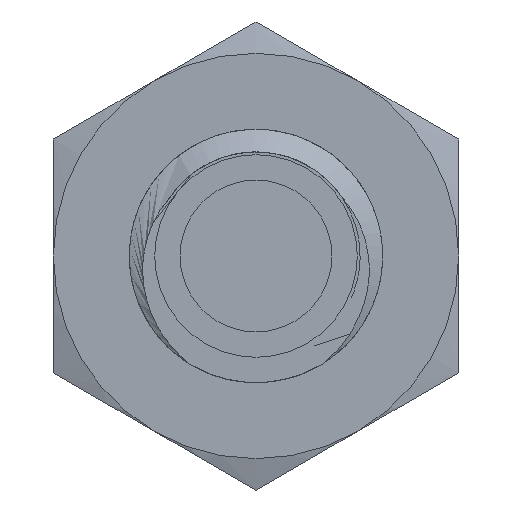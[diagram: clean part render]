
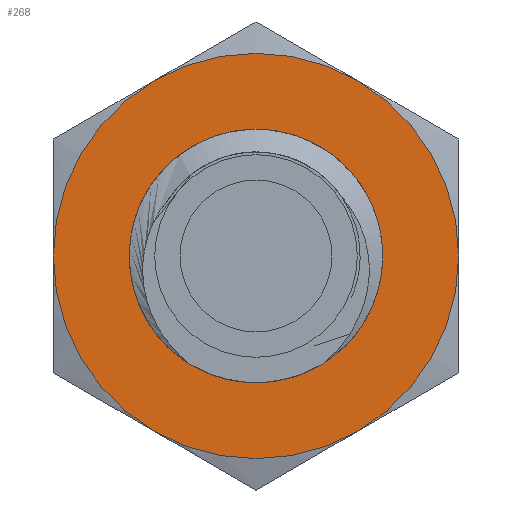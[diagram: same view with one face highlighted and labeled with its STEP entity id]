
A CAD part, front view. The second image highlights one B-rep face of the part: STEP entity #268.
In plain terms, the highlighted planar face has unit normal (0, -1, 0).
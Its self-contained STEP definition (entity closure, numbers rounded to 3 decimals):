
#203=FACE_OUTER_BOUND('',#356,.T.);
#268=ADVANCED_FACE('',(#203),#296,.T.);
#296=PLANE('',#842);
#356=EDGE_LOOP('',(#510,#511,#512,#513,#514,#515));
#510=ORIENTED_EDGE('',*,*,#718,.T.);
#511=ORIENTED_EDGE('',*,*,#715,.T.);
#512=ORIENTED_EDGE('',*,*,#712,.T.);
#513=ORIENTED_EDGE('',*,*,#708,.T.);
#514=ORIENTED_EDGE('',*,*,#719,.T.);
#515=ORIENTED_EDGE('',*,*,#706,.T.);
#618=VERTEX_POINT('',#7965);
#620=VERTEX_POINT('',#7970);
#622=VERTEX_POINT('',#7977);
#623=VERTEX_POINT('',#7979);
#624=VERTEX_POINT('',#7987);
#626=VERTEX_POINT('',#7997);
#706=EDGE_CURVE('',#618,#620,#767,.T.);
#708=EDGE_CURVE('',#623,#622,#768,.T.);
#712=EDGE_CURVE('',#624,#623,#769,.T.);
#715=EDGE_CURVE('',#626,#624,#770,.T.);
#718=EDGE_CURVE('',#620,#626,#771,.T.);
#719=EDGE_CURVE('',#622,#618,#772,.T.);
#767=CIRCLE('',#831,4.);
#768=CIRCLE('',#833,4.);
#769=CIRCLE('',#835,4.);
#770=CIRCLE('',#837,4.);
#771=CIRCLE('',#839,4.);
#772=CIRCLE('',#841,4.);
#831=AXIS2_PLACEMENT_3D('',#7971,#975,#976);
#833=AXIS2_PLACEMENT_3D('',#7978,#979,#980);
#835=AXIS2_PLACEMENT_3D('',#7992,#983,#984);
#837=AXIS2_PLACEMENT_3D('',#8002,#987,#988);
#839=AXIS2_PLACEMENT_3D('',#8011,#991,#992);
#841=AXIS2_PLACEMENT_3D('',#8013,#995,#996);
#842=AXIS2_PLACEMENT_3D('',#8014,#997,#998);
#975=DIRECTION('',(0.,-1.,0.));
#976=DIRECTION('',(0.5,0.,-0.866));
#979=DIRECTION('',(0.,-1.,0.));
#980=DIRECTION('',(-1.,0.,0.));
#983=DIRECTION('',(0.,-1.,0.));
#984=DIRECTION('',(-0.5,0.,0.866));
#987=DIRECTION('',(0.,-1.,0.));
#988=DIRECTION('',(0.5,0.,0.866));
#991=DIRECTION('',(0.,-1.,0.));
#992=DIRECTION('',(1.,0.,0.));
#995=DIRECTION('',(0.,-1.,0.));
#996=DIRECTION('',(-0.5,0.,-0.866));
#997=DIRECTION('',(0.,-1.,0.));
#998=DIRECTION('',(0.,0.,1.));
#7965=CARTESIAN_POINT('',(2.,-19.7,-3.464));
#7970=CARTESIAN_POINT('',(4.,-19.7,0.));
#7971=CARTESIAN_POINT('',(0.,-19.7,0.));
#7977=CARTESIAN_POINT('',(-2.,-19.7,-3.464));
#7978=CARTESIAN_POINT('',(0.,-19.7,0.));
#7979=CARTESIAN_POINT('',(-4.,-19.7,0.));
#7987=CARTESIAN_POINT('',(-2.,-19.7,3.464));
#7992=CARTESIAN_POINT('',(0.,-19.7,0.));
#7997=CARTESIAN_POINT('',(2.,-19.7,3.464));
#8002=CARTESIAN_POINT('',(0.,-19.7,0.));
#8011=CARTESIAN_POINT('',(0.,-19.7,0.));
#8013=CARTESIAN_POINT('',(0.,-19.7,0.));
#8014=CARTESIAN_POINT('',(4.4,-19.7,-4.4));
